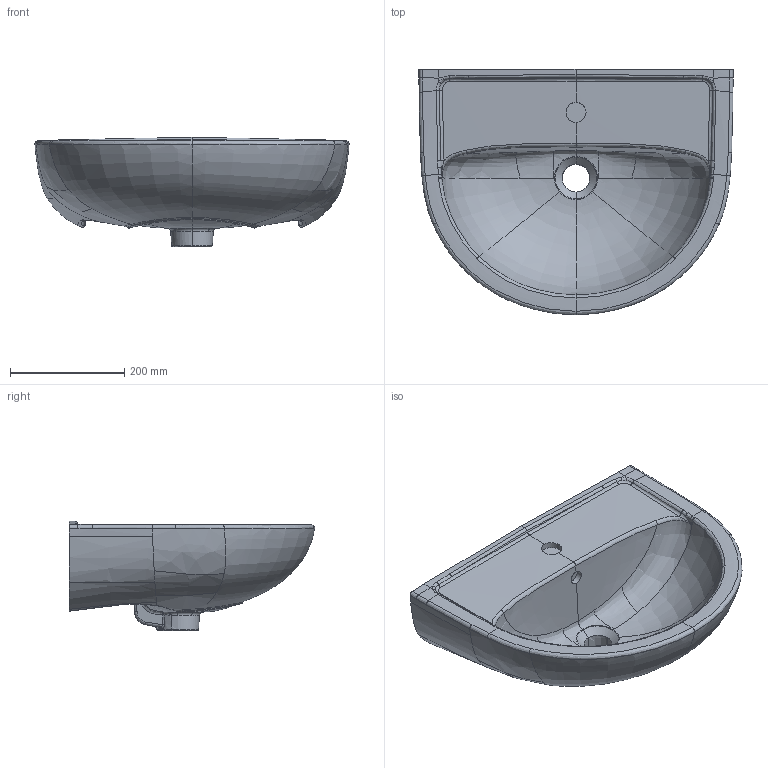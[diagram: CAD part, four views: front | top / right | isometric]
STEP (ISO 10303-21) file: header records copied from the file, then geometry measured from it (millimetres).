
FILE_DESCRIPTION(/* description */ (''),/* implementation_level */ '2;1');
FILE_NAME(/* name */ '7G1155_SAVAL_20_WT_55.stp',/* time_stamp */ '2019-01-02T11:01:07+01:00',/* author */ (''),/* organization */ (''),/* preprocessor_version */ 'ST-DEVELOPER v16',/* originating_system */ 'SIEMENS PLM Software NX 10.0',/* authorisation */ '');
FILE_SCHEMA (('AUTOMOTIVE_DESIGN { 1 0 10303 214 3 1 1 1 }'));
Length unit declared in the file: millimetre
Products named in the file (1): Sier1698FB05owh3
Bounding box: 549.1 x 429.03 x 191.12 mm (x, y, z)
Volume: 14304772.9 mm3; surface area: 671097.4 mm2
Topology: 1 solids, 1 shells, 228 faces, 575 edges, 345 vertices
Faces by surface type: bspline 200, plane 16, cylinder 8, extrusion 4
Full cylindrical faces by diameter (mm): 24 x1, 35 x1
Entity records: 29620 total; most frequent: CARTESIAN_POINT 25938, ORIENTED_EDGE 1138, EDGE_CURVE 569, B_SPLINE_CURVE_WITH_KNOTS 423, VERTEX_POINT 343, EDGE_LOOP 230, ADVANCED_FACE 228, FACE_OUTER_BOUND 226
